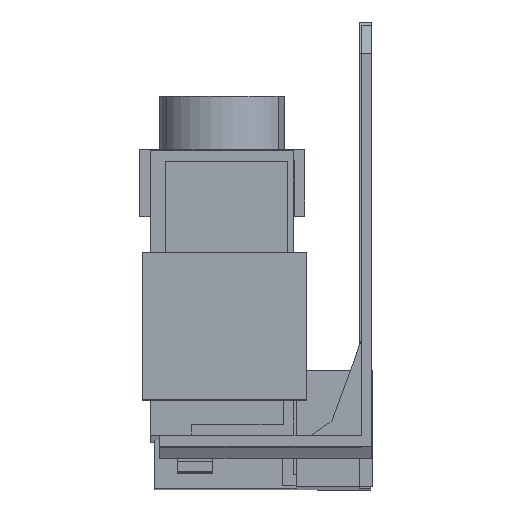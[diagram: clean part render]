
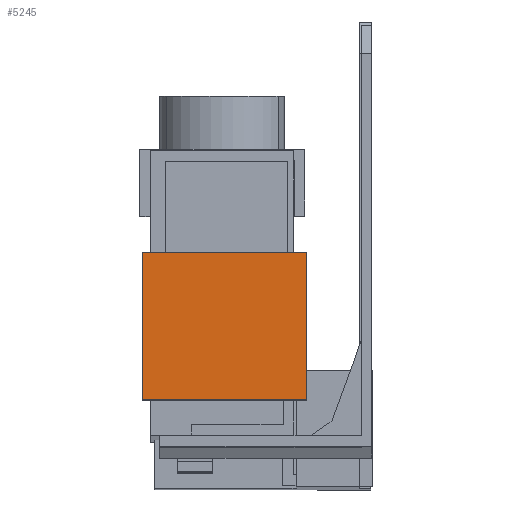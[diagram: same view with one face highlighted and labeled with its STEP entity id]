
A CAD part, front view. The second image highlights one B-rep face of the part: STEP entity #5245.
In plain terms, the highlighted planar face has unit normal (0, -1, 0.003).
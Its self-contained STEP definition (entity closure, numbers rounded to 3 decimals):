
#169 = CARTESIAN_POINT ( 'NONE',  ( -9.3, -31.452, -19.316 ) ) ;
#171 = CARTESIAN_POINT ( 'NONE',  ( -32.7, -31.452, -19.316 ) ) ;
#172 = CARTESIAN_POINT ( 'NONE',  ( -9.3, -31.509, -40.315 ) ) ;
#173 = CARTESIAN_POINT ( 'NONE',  ( -32.7, -31.509, -40.315 ) ) ;
#299 = AXIS2_PLACEMENT_3D ( 'NONE', #2113, #2119, #2120 ) ;
#770 = FACE_OUTER_BOUND ( 'NONE', #4194, .T. ) ;
#823 = VECTOR ( 'NONE', #2265, 1000. ) ;
#826 = LINE ( 'NONE', #2259, #823 ) ;
#1181 = LINE ( 'NONE', #2700, #1182 ) ;
#1182 = VECTOR ( 'NONE', #2701, 1000. ) ;
#1549 = LINE ( 'NONE', #3134, #1550 ) ;
#1550 = VECTOR ( 'NONE', #3135, 1000. ) ;
#2110 = PLANE ( 'NONE',  #299 ) ;
#2113 = CARTESIAN_POINT ( 'NONE',  ( -9.3, -31.509, -40.315 ) ) ;
#2119 = DIRECTION ( 'NONE',  ( 0., -1., 0.003 ) ) ;
#2120 = DIRECTION ( 'NONE',  ( 1., 0., 0. ) ) ;
#2259 = CARTESIAN_POINT ( 'NONE',  ( -9.3, -31.509, -40.315 ) ) ;
#2265 = DIRECTION ( 'NONE',  ( 0., 0.003, 1. ) ) ;
#2700 = CARTESIAN_POINT ( 'NONE',  ( -32.7, -31.509, -40.315 ) ) ;
#2701 = DIRECTION ( 'NONE',  ( 0., 0.003, 1. ) ) ;
#3134 = CARTESIAN_POINT ( 'NONE',  ( -9.3, -31.509, -40.315 ) ) ;
#3135 = DIRECTION ( 'NONE',  ( -1., 0., 0. ) ) ;
#3160 = CARTESIAN_POINT ( 'NONE',  ( -9.3, -31.452, -19.316 ) ) ;
#3161 = DIRECTION ( 'NONE',  ( -1., 0., 0. ) ) ;
#3366 = LINE ( 'NONE', #3160, #3382 ) ;
#3382 = VECTOR ( 'NONE', #3161, 1000. ) ;
#3837 = VERTEX_POINT ( 'NONE', #173 ) ;
#3838 = VERTEX_POINT ( 'NONE', #172 ) ;
#3839 = VERTEX_POINT ( 'NONE', #171 ) ;
#3841 = VERTEX_POINT ( 'NONE', #169 ) ;
#4194 = EDGE_LOOP ( 'NONE', ( #4968, #4969, #4970, #4971 ) ) ;
#4968 = ORIENTED_EDGE ( 'NONE', *, *, #5839, .T. ) ;
#4969 = ORIENTED_EDGE ( 'NONE', *, *, #5554, .F. ) ;
#4970 = ORIENTED_EDGE ( 'NONE', *, *, #5826, .F. ) ;
#4971 = ORIENTED_EDGE ( 'NONE', *, *, #5289, .T. ) ;
#5245 = ADVANCED_FACE ( 'NONE', ( #770 ), #2110, .T. ) ;
#5289 = EDGE_CURVE ( 'NONE', #3838, #3841, #826, .T. ) ;
#5554 = EDGE_CURVE ( 'NONE', #3837, #3839, #1181, .T. ) ;
#5826 = EDGE_CURVE ( 'NONE', #3838, #3837, #1549, .T. ) ;
#5839 = EDGE_CURVE ( 'NONE', #3841, #3839, #3366, .T. ) ;
